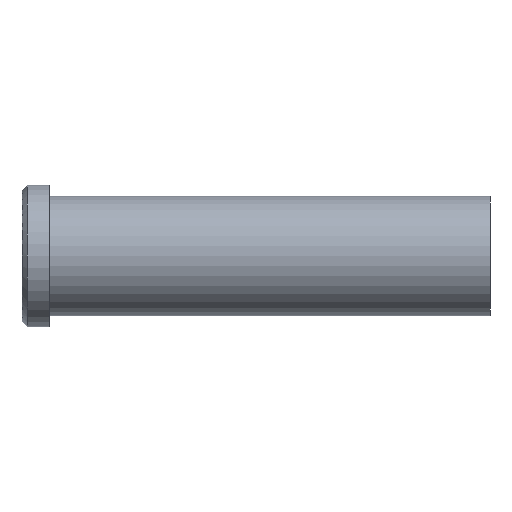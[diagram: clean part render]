
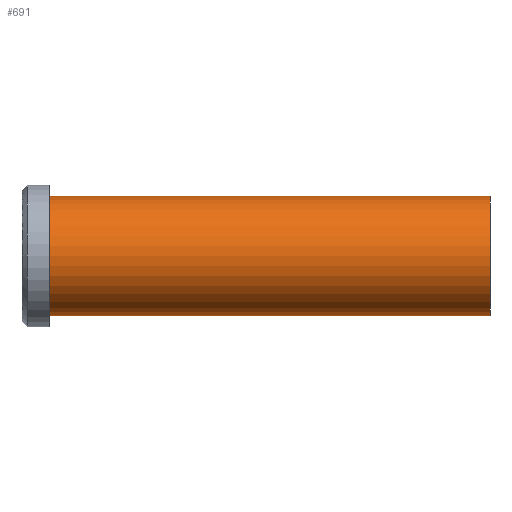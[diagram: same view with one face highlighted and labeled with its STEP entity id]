
A CAD part, front view. The second image highlights one B-rep face of the part: STEP entity #691.
In plain terms, the highlighted cylindrical face has radius 11 mm (diameter 22 mm), a partial arc.
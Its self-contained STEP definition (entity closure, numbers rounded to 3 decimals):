
#501=CARTESIAN_POINT('Vertex',(0.,0.,-11.)) ;
#506=CARTESIAN_POINT('Axis2P3D Location',(0.,0.,0.)) ;
#510=CARTESIAN_POINT('Vertex',(0.,-11.,0.)) ;
#513=CARTESIAN_POINT('Axis2P3D Location',(0.,0.,0.)) ;
#517=CARTESIAN_POINT('Vertex',(0.,0.,11.)) ;
#631=CARTESIAN_POINT('Line Origine',(81.,0.,11.)) ;
#635=CARTESIAN_POINT('Vertex',(81.,0.,11.)) ;
#649=CARTESIAN_POINT('Vertex',(81.,0.,-11.)) ;
#652=CARTESIAN_POINT('Line Origine',(81.,0.,-11.)) ;
#666=CARTESIAN_POINT('Axis2P3D Location',(81.,0.,0.)) ;
#671=CARTESIAN_POINT('Axis2P3D Location',(81.,0.,0.)) ;
#675=CARTESIAN_POINT('Vertex',(81.,-11.,0.)) ;
#678=CARTESIAN_POINT('Axis2P3D Location',(81.,0.,0.)) ;
#507=DIRECTION('Axis2P3D Direction',(1.,0.,-0.)) ;
#514=DIRECTION('Axis2P3D Direction',(1.,0.,-0.)) ;
#632=DIRECTION('Vector Direction',(-1.,0.,0.)) ;
#653=DIRECTION('Vector Direction',(-1.,0.,0.)) ;
#667=DIRECTION('Axis2P3D Direction',(-1.,-0.,-0.)) ;
#668=DIRECTION('Axis2P3D XDirection',(0.,0.,-1.)) ;
#672=DIRECTION('Axis2P3D Direction',(-1.,-0.,-0.)) ;
#679=DIRECTION('Axis2P3D Direction',(-1.,-0.,-0.)) ;
#508=AXIS2_PLACEMENT_3D('Circle Axis2P3D',#506,#507,$) ;
#515=AXIS2_PLACEMENT_3D('Circle Axis2P3D',#513,#514,$) ;
#669=AXIS2_PLACEMENT_3D('Cylinder Axis2P3D',#666,#667,#668) ;
#673=AXIS2_PLACEMENT_3D('Circle Axis2P3D',#671,#672,$) ;
#680=AXIS2_PLACEMENT_3D('Circle Axis2P3D',#678,#679,$) ;
#684=ORIENTED_EDGE('',*,*,#656,.T.) ;
#685=ORIENTED_EDGE('',*,*,#677,.F.) ;
#686=ORIENTED_EDGE('',*,*,#682,.F.) ;
#687=ORIENTED_EDGE('',*,*,#637,.T.) ;
#688=ORIENTED_EDGE('',*,*,#519,.T.) ;
#689=ORIENTED_EDGE('',*,*,#512,.T.) ;
#633=VECTOR('Line Direction',#632,1.) ;
#654=VECTOR('Line Direction',#653,1.) ;
#691=ADVANCED_FACE('353-16X86',(#690),#670,.T.) ;
#509=CIRCLE('generated circle',#508,11.) ;
#516=CIRCLE('generated circle',#515,11.) ;
#674=CIRCLE('generated circle',#673,11.) ;
#681=CIRCLE('generated circle',#680,11.) ;
#670=CYLINDRICAL_SURFACE('generated cylinder',#669,11.) ;
#512=EDGE_CURVE('',#511,#502,#509,.T.) ;
#519=EDGE_CURVE('',#518,#511,#516,.T.) ;
#637=EDGE_CURVE('',#636,#518,#634,.T.) ;
#656=EDGE_CURVE('',#502,#650,#655,.F.) ;
#677=EDGE_CURVE('',#676,#650,#674,.F.) ;
#682=EDGE_CURVE('',#636,#676,#681,.F.) ;
#683=EDGE_LOOP('',(#684,#685,#686,#687,#688,#689)) ;
#690=FACE_OUTER_BOUND('',#683,.T.) ;
#634=LINE('Line',#631,#633) ;
#655=LINE('Line',#652,#654) ;
#502=VERTEX_POINT('',#501) ;
#511=VERTEX_POINT('',#510) ;
#518=VERTEX_POINT('',#517) ;
#636=VERTEX_POINT('',#635) ;
#650=VERTEX_POINT('',#649) ;
#676=VERTEX_POINT('',#675) ;
